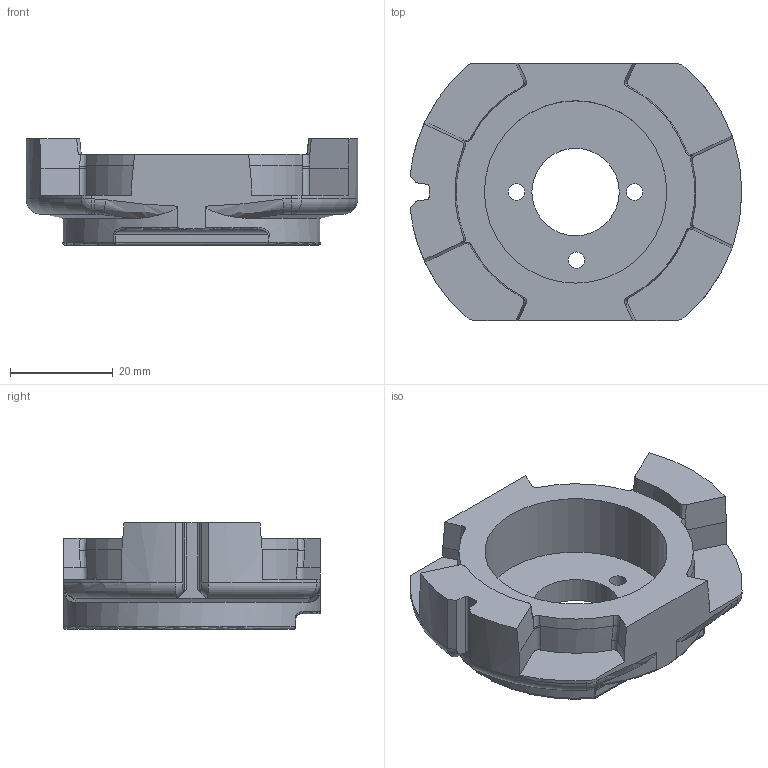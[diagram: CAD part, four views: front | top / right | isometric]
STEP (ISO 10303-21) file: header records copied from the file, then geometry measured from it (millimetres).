
FILE_DESCRIPTION(/* description */ ('STEP AP242 Edition 2','CAx-IF Rec.Pracs.---Representation and Presentation of Product Manufacturing Information (PMI)---4.0---2014-10-13','CAx-IF Rec.Pracs.---3D Tessellated Geometry---0.4---2014-09-14','2;1','CAx-IF Rec.Pracs.---User Defined Attributes---1.5---2016-08-15'),/* implementation_level */ '2;1');
FILE_NAME(/* name */ 'Assy_ForMFG - KD-C-502X_Bottom_Wrist_Rotor (1)',/* time_stamp */ '2026-05-15T19:56:31Z',/* author */ (''),/* organization */ (''),/* preprocessor_version */ 'ST-DEVELOPER v20',/* originating_system */ 'ONSHAPE BY PTC INC, 1.215',/* authorisation */ ' ');
FILE_SCHEMA (('AP242_MANAGED_MODEL_BASED_3D_ENGINEERING_MIM_LF { 1 0 10303 442 3 1 4 }'));
Length unit declared in the file: metre
Products named in the file (1): KD-C-502X_Bottom_Wrist_Rotor
Bounding box: 64.54 x 50 x 20.7 mm (x, y, z)
Volume: 26596.3 mm3; surface area: 10510.5 mm2
Topology: 1 solids, 1 shells, 124 faces, 343 edges, 218 vertices
Faces by surface type: plane 41, cylinder 33, bspline 32, cone 8, torus 6, sphere 4
Full cylindrical faces by diameter (mm): 3.2 x3, 17 x1, 35.5 x1
Entity records: 4410 total; most frequent: CARTESIAN_POINT 1530, ORIENTED_EDGE 666, DIRECTION 504, EDGE_CURVE 333, VERTEX_POINT 217, AXIS2_PLACEMENT_3D 199, EDGE_LOOP 138, FACE_BOUND 138
